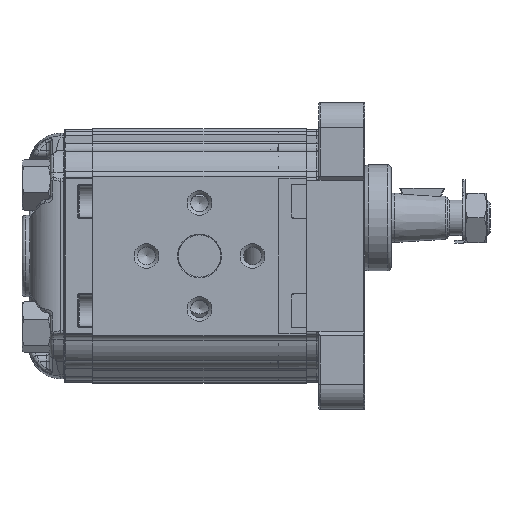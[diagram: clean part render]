
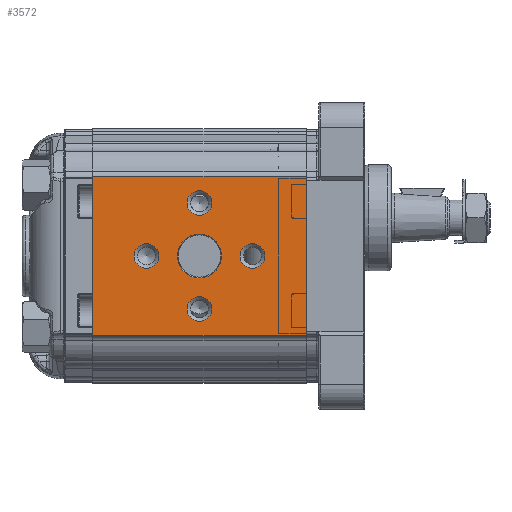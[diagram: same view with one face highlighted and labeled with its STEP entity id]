
A CAD part, left-side view. The second image highlights one B-rep face of the part: STEP entity #3572.
In plain terms, the highlighted planar face has unit normal (-1, 0, 0).
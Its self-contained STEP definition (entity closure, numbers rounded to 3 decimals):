
#3572 = ADVANCED_FACE( '', ( #7767, #7768, #7769, #7770, #7771, #7772 ), #7773, .T. );
#7767 = FACE_BOUND( '', #14702, .T. );
#7768 = FACE_BOUND( '', #14703, .T. );
#7769 = FACE_BOUND( '', #14704, .T. );
#7770 = FACE_BOUND( '', #14705, .T. );
#7771 = FACE_BOUND( '', #14706, .T. );
#7772 = FACE_OUTER_BOUND( '', #14707, .T. );
#7773 = PLANE( '', #14708 );
#14702 = EDGE_LOOP( '', ( #25752 ) );
#14703 = EDGE_LOOP( '', ( #25753 ) );
#14704 = EDGE_LOOP( '', ( #25754 ) );
#14705 = EDGE_LOOP( '', ( #25755 ) );
#14706 = EDGE_LOOP( '', ( #25756 ) );
#14707 = EDGE_LOOP( '', ( #25757, #25758, #25759, #25760 ) );
#14708 = AXIS2_PLACEMENT_3D( '', #25761, #25762, #25763 );
#25752 = ORIENTED_EDGE( '', *, *, #32728, .T. );
#25753 = ORIENTED_EDGE( '', *, *, #31671, .T. );
#25754 = ORIENTED_EDGE( '', *, *, #30453, .T. );
#25755 = ORIENTED_EDGE( '', *, *, #32380, .T. );
#25756 = ORIENTED_EDGE( '', *, *, #32489, .T. );
#25757 = ORIENTED_EDGE( '', *, *, #33161, .T. );
#25758 = ORIENTED_EDGE( '', *, *, #32283, .T. );
#25759 = ORIENTED_EDGE( '', *, *, #33686, .T. );
#25760 = ORIENTED_EDGE( '', *, *, #29953, .F. );
#25761 = CARTESIAN_POINT( '', ( -33., 132.376, 48.138 ) );
#25762 = DIRECTION( '', ( -1., 0., 0. ) );
#25763 = DIRECTION( '', ( 0., 0., 1. ) );
#29953 = EDGE_CURVE( '', #35271, #35273, #35274, .T. );
#30453 = EDGE_CURVE( '', #36129, #36129, #36130, .F. );
#31671 = EDGE_CURVE( '', #38039, #38039, #38040, .F. );
#32283 = EDGE_CURVE( '', #38964, #38962, #38965, .T. );
#32380 = EDGE_CURVE( '', #39102, #39102, #39103, .F. );
#32489 = EDGE_CURVE( '', #39257, #39257, #39258, .F. );
#32728 = EDGE_CURVE( '', #39593, #39593, #39594, .F. );
#33161 = EDGE_CURVE( '', #35271, #38964, #40157, .T. );
#33686 = EDGE_CURVE( '', #38962, #35273, #40742, .F. );
#35271 = VERTEX_POINT( '', #43125 );
#35273 = VERTEX_POINT( '', #43127 );
#35274 = LINE( '', #43128, #43129 );
#36129 = VERTEX_POINT( '', #45012 );
#36130 = CIRCLE( '', #45013, 3.5 );
#38039 = VERTEX_POINT( '', #49379 );
#38040 = CIRCLE( '', #49380, 3.5 );
#38962 = VERTEX_POINT( '', #51418 );
#38964 = VERTEX_POINT( '', #51420 );
#38965 = LINE( '', #51421, #51422 );
#39102 = VERTEX_POINT( '', #51861 );
#39103 = CIRCLE( '', #51862, 3.5 );
#39257 = VERTEX_POINT( '', #52198 );
#39258 = CIRCLE( '', #52199, 6.2 );
#39593 = VERTEX_POINT( '', #52789 );
#39594 = CIRCLE( '', #52790, 3.5 );
#40157 = LINE( '', #53990, #53991 );
#40742 = LINE( '', #55253, #55254 );
#43125 = CARTESIAN_POINT( '', ( -33., 60.5, -22.5 ) );
#43127 = CARTESIAN_POINT( '', ( -33., 60.5, 22.5 ) );
#43128 = CARTESIAN_POINT( '', ( -33., 60.5, -21.711 ) );
#43129 = VECTOR( '', #57398, 1000. );
#45012 = CARTESIAN_POINT( '', ( -33., 30.25, 18.5 ) );
#45013 = AXIS2_PLACEMENT_3D( '', #58020, #58021, #58022 );
#49379 = CARTESIAN_POINT( '', ( -33., 15.25, 3.5 ) );
#49380 = AXIS2_PLACEMENT_3D( '', #59577, #59578, #59579 );
#51418 = CARTESIAN_POINT( '', ( -33., 0., 22.5 ) );
#51420 = CARTESIAN_POINT( '', ( -33., 0., -22.5 ) );
#51421 = CARTESIAN_POINT( '', ( -33., 0., -21.711 ) );
#51422 = VECTOR( '', #60390, 1000. );
#51861 = CARTESIAN_POINT( '', ( -33., 45.25, 3.5 ) );
#51862 = AXIS2_PLACEMENT_3D( '', #60514, #60515, #60516 );
#52198 = CARTESIAN_POINT( '', ( -33., 30.25, 6.2 ) );
#52199 = AXIS2_PLACEMENT_3D( '', #60633, #60634, #60635 );
#52789 = CARTESIAN_POINT( '', ( -33., 30.25, -11.5 ) );
#52790 = AXIS2_PLACEMENT_3D( '', #60952, #60953, #60954 );
#53990 = CARTESIAN_POINT( '', ( -33., 60.5, -22.5 ) );
#53991 = VECTOR( '', #61496, 1000. );
#55253 = CARTESIAN_POINT( '', ( -33., 60.5, 22.5 ) );
#55254 = VECTOR( '', #61982, 1000. );
#57398 = DIRECTION( '', ( 0., 0., 1. ) );
#58020 = CARTESIAN_POINT( '', ( -33., 30.25, 15. ) );
#58021 = DIRECTION( '', ( -1., 0., 0. ) );
#58022 = DIRECTION( '', ( 0., 0., 1. ) );
#59577 = CARTESIAN_POINT( '', ( -33., 15.25, 0. ) );
#59578 = DIRECTION( '', ( -1., 0., 0. ) );
#59579 = DIRECTION( '', ( 0., 0., 1. ) );
#60390 = DIRECTION( '', ( 0., 0., 1. ) );
#60514 = CARTESIAN_POINT( '', ( -33., 45.25, 0. ) );
#60515 = DIRECTION( '', ( -1., 0., 0. ) );
#60516 = DIRECTION( '', ( 0., 0., 1. ) );
#60633 = CARTESIAN_POINT( '', ( -33., 30.25, 0. ) );
#60634 = DIRECTION( '', ( -1., 0., 0. ) );
#60635 = DIRECTION( '', ( 0., 0., 1. ) );
#60952 = CARTESIAN_POINT( '', ( -33., 30.25, -15. ) );
#60953 = DIRECTION( '', ( -1., 0., 0. ) );
#60954 = DIRECTION( '', ( 0., 0., 1. ) );
#61496 = DIRECTION( '', ( 0., -1., 0. ) );
#61982 = DIRECTION( '', ( 0., -1., 0. ) );
